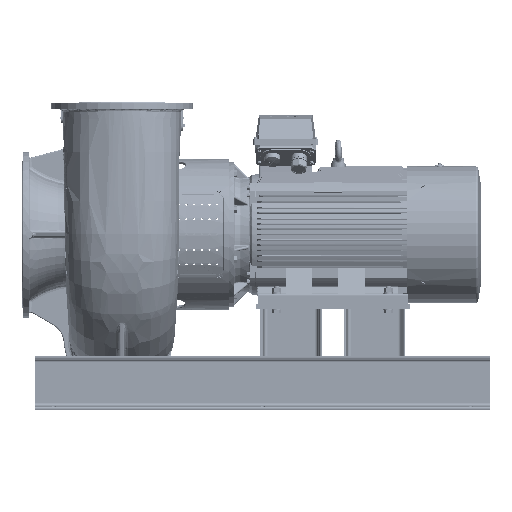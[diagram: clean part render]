
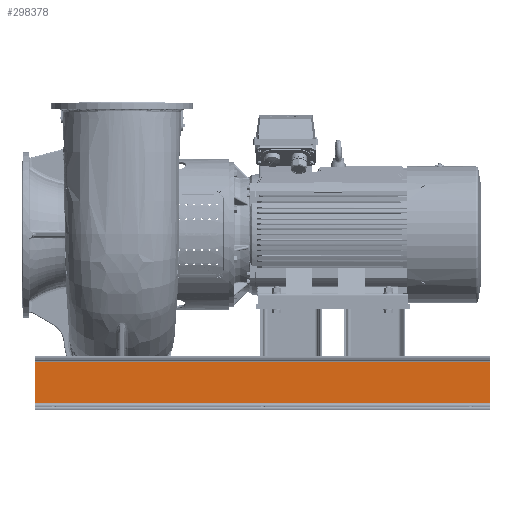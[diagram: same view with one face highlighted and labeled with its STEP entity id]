
A CAD part, top view. The second image highlights one B-rep face of the part: STEP entity #298378.
In plain terms, the highlighted planar face has unit normal (0, 0, 1) as drawn and (1, 0, 0) by its records, which use the part's own axes.
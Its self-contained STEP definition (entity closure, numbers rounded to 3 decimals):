
#292994=DIRECTION('',(0.,1.,0.));
#292995=VECTOR('',#292994,185.635);
#292996=CARTESIAN_POINT('',(594.5,27.182,-2070.));
#292997=LINE('',#292996,#292995);
#293118=DIRECTION('',(0.,1.,0.));
#293119=VECTOR('',#293118,185.635);
#293120=CARTESIAN_POINT('',(594.5,27.182,0.));
#293121=LINE('',#293120,#293119);
#293628=DIRECTION('',(0.,0.,-1.));
#293629=VECTOR('',#293628,2070.);
#293630=CARTESIAN_POINT('',(594.5,27.182,0.));
#293631=LINE('',#293630,#293629);
#293632=DIRECTION('',(0.,0.,-1.));
#293633=VECTOR('',#293632,2070.);
#293634=CARTESIAN_POINT('',(594.5,212.818,0.));
#293635=LINE('',#293634,#293633);
#294940=CARTESIAN_POINT('',(594.5,27.182,0.));
#294941=VERTEX_POINT('',#294940);
#294942=CARTESIAN_POINT('',(594.5,212.818,0.));
#294943=VERTEX_POINT('',#294942);
#294968=CARTESIAN_POINT('',(594.5,27.182,-2070.));
#294969=VERTEX_POINT('',#294968);
#294970=CARTESIAN_POINT('',(594.5,212.818,-2070.));
#294971=VERTEX_POINT('',#294970);
#298366=CARTESIAN_POINT('',(594.5,27.182,0.));
#298367=DIRECTION('',(1.,0.,0.));
#298368=DIRECTION('',(0.,1.,0.));
#298369=AXIS2_PLACEMENT_3D('',#298366,#298367,#298368);
#298370=PLANE('',#298369);
#298371=ORIENTED_EDGE('',*,*,#297990,.T.);
#298373=ORIENTED_EDGE('',*,*,#298372,.T.);
#298374=ORIENTED_EDGE('',*,*,#297909,.F.);
#298375=ORIENTED_EDGE('',*,*,#298359,.F.);
#298376=EDGE_LOOP('',(#298371,#298373,#298374,#298375));
#298377=FACE_OUTER_BOUND('',#298376,.F.);
#298378=ADVANCED_FACE('',(#298377),#298370,.T.);
#297909=EDGE_CURVE('',#294969,#294971,#292997,.T.);
#297990=EDGE_CURVE('',#294941,#294943,#293121,.T.);
#298359=EDGE_CURVE('',#294941,#294969,#293631,.T.);
#298372=EDGE_CURVE('',#294943,#294971,#293635,.T.);
